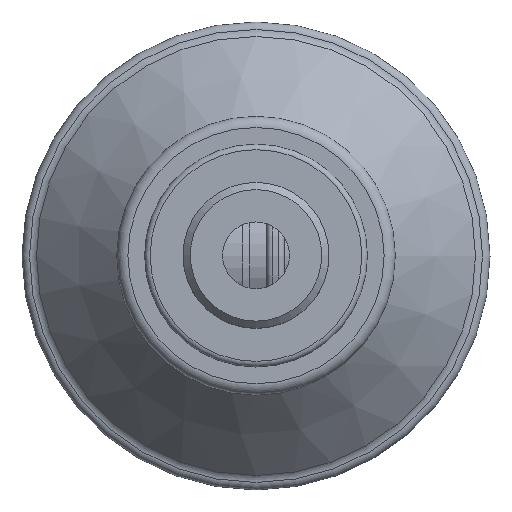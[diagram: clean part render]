
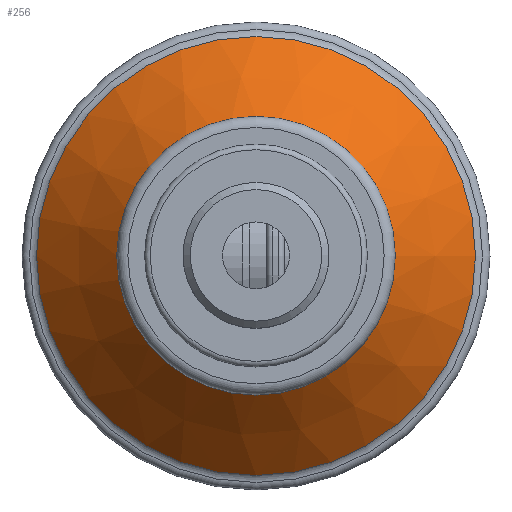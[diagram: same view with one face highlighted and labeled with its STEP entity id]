
A CAD part, top view. The second image highlights one B-rep face of the part: STEP entity #256.
In plain terms, the highlighted conical face has half-angle 43.089 degrees and reference radius 19.695 mm.
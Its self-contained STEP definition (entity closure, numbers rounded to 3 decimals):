
#256 = ADVANCED_FACE( '', ( #566, #567 ), #568, .T. );
#566 = FACE_BOUND( '', #895, .T. );
#567 = FACE_OUTER_BOUND( '', #896, .T. );
#568 = CONICAL_SURFACE( '', #897, 19.695, 0.752 );
#895 = EDGE_LOOP( '', ( #1341 ) );
#896 = EDGE_LOOP( '', ( #1342 ) );
#897 = AXIS2_PLACEMENT_3D( '', #1343, #1344, #1345 );
#1341 = ORIENTED_EDGE( '', *, *, #1523, .F. );
#1342 = ORIENTED_EDGE( '', *, *, #1456, .T. );
#1343 = CARTESIAN_POINT( '', ( 0., 0., -10.281 ) );
#1344 = DIRECTION( '', ( 0., 0., -1. ) );
#1345 = DIRECTION( '', ( -1., 0., 0. ) );
#1456 = EDGE_CURVE( '', #1634, #1634, #1635, .T. );
#1523 = EDGE_CURVE( '', #1741, #1741, #1742, .T. );
#1634 = VERTEX_POINT( '', #1865 );
#1635 = CIRCLE( '', #1866, 19.695 );
#1741 = VERTEX_POINT( '', #1972 );
#1742 = CIRCLE( '', #1973, 12.5 );
#1865 = CARTESIAN_POINT( '', ( 19.695, 0., -10.281 ) );
#1866 = AXIS2_PLACEMENT_3D( '', #2106, #2107, #2108 );
#1972 = CARTESIAN_POINT( '', ( 12.5, 0., -2.589 ) );
#1973 = AXIS2_PLACEMENT_3D( '', #2226, #2227, #2228 );
#2106 = CARTESIAN_POINT( '', ( 0., 0., -10.281 ) );
#2107 = DIRECTION( '', ( 0., 0., 1. ) );
#2108 = DIRECTION( '', ( 1., 0., 0. ) );
#2226 = CARTESIAN_POINT( '', ( 0., 0., -2.589 ) );
#2227 = DIRECTION( '', ( 0., 0., 1. ) );
#2228 = DIRECTION( '', ( 1., 0., 0. ) );
